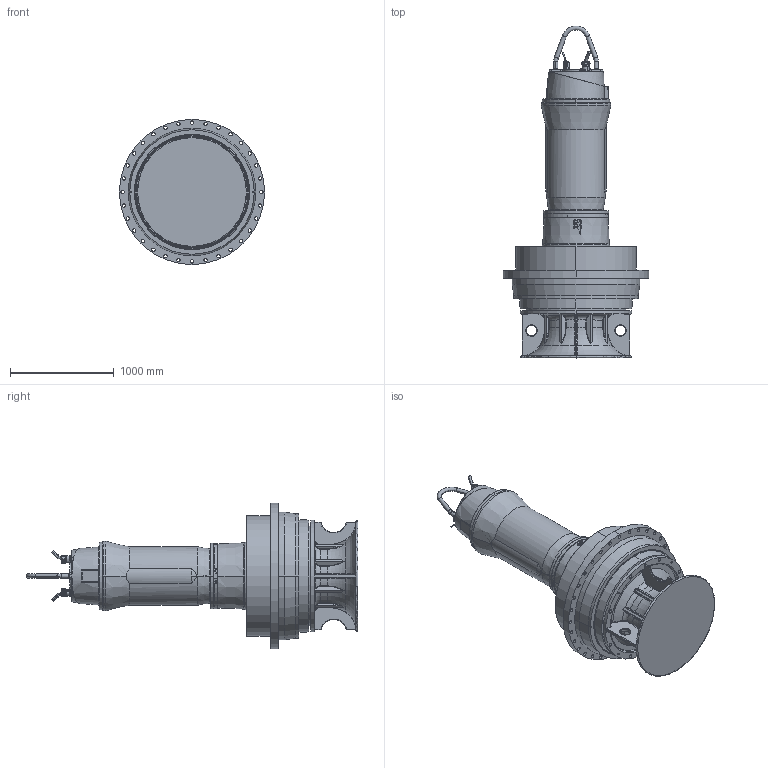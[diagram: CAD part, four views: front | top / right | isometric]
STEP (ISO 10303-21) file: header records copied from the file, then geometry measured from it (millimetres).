
FILE_DESCRIPTION (( 'STEP AP214' ), '1' );
FILE_NAME ('PE6_AFLX12107G3_DIN_B_NG2.STEP', '2017-04-25T11:16:36', ( '' ), ( '' ), 'SwSTEP 2.0', 'SolidWorks 2017', '' );
FILE_SCHEMA (( 'AUTOMOTIVE_DESIGN' ));
Length unit declared in the file: millimetre
Products named in the file (1): PE6_AFLX12107G3_DIN_B_NG2
Bounding box: 1400 x 3202.1 x 1400 mm (x, y, z)
Volume: 1323445665.4 mm3; surface area: 14122436.3 mm2
Topology: 4 solids, 22 shells, 2293 faces, 5572 edges, 3247 vertices
Faces by surface type: cylinder 642, plane 586, bspline 493, cone 265, torus 230, sphere 77
Entity records: 121035 total; most frequent: CARTESIAN_POINT 45967, ORIENTED_EDGE 10830, DIRECTION 9761, EDGE_CURVE 5415, AXIS2_PLACEMENT_3D 3894, VERTEX_POINT 3246, EDGE_LOOP 2525, UNCERTAINTY_MEASURE_WITH_UNIT 2299
